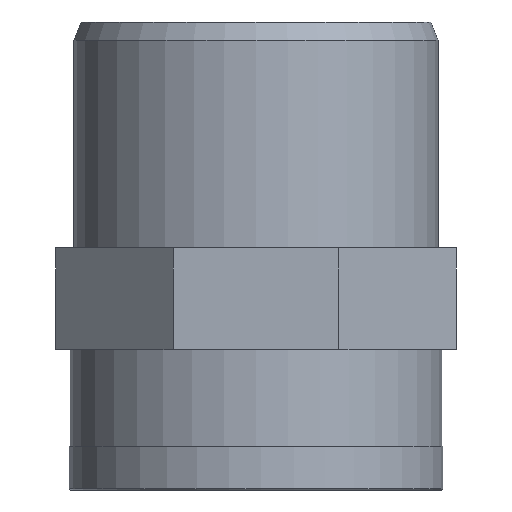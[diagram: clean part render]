
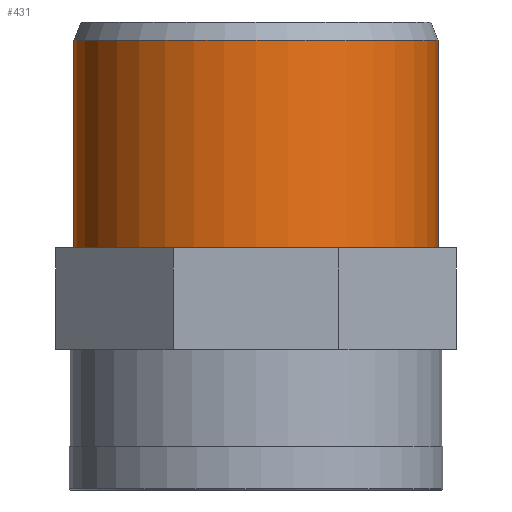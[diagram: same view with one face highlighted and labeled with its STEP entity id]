
A CAD part, front view. The second image highlights one B-rep face of the part: STEP entity #431.
In plain terms, the highlighted cylindrical face has radius 25 mm (diameter 50 mm), a full revolution.
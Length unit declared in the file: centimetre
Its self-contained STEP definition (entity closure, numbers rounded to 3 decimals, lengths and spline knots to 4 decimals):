
#104=FACE_BOUND('',#154,.T.);
#123=FACE_OUTER_BOUND('',#153,.T.);
#153=EDGE_LOOP('',(#322));
#154=EDGE_LOOP('',(#323));
#187=CIRCLE('',#461,2.5);
#189=CIRCLE('',#464,2.5);
#209=VERTEX_POINT('',#4380);
#211=VERTEX_POINT('',#4385);
#253=EDGE_CURVE('',#209,#209,#187,.T.);
#255=EDGE_CURVE('',#211,#211,#189,.T.);
#322=ORIENTED_EDGE('',*,*,#255,.T.);
#323=ORIENTED_EDGE('',*,*,#253,.F.);
#390=CYLINDRICAL_SURFACE('',#463,2.5);
#431=ADVANCED_FACE('',(#123,#104),#390,.T.);
#461=AXIS2_PLACEMENT_3D('',#4381,#512,#513);
#463=AXIS2_PLACEMENT_3D('',#4384,#516,#517);
#464=AXIS2_PLACEMENT_3D('',#4386,#518,#519);
#512=DIRECTION('center_axis',(0.,0.,1.));
#513=DIRECTION('ref_axis',(-1.,0.,0.));
#516=DIRECTION('center_axis',(0.,0.,1.));
#517=DIRECTION('ref_axis',(1.,0.,0.));
#518=DIRECTION('center_axis',(0.,0.,1.));
#519=DIRECTION('ref_axis',(1.,0.,0.));
#4380=CARTESIAN_POINT('',(2.098,-0.003,4.1733));
#4381=CARTESIAN_POINT('Origin',(-0.402,-0.003,
4.1733));
#4384=CARTESIAN_POINT('Origin',(-0.402,-0.003,
2.8733));
#4385=CARTESIAN_POINT('',(2.098,-0.003,1.3233));
#4386=CARTESIAN_POINT('Origin',(-0.402,-0.003,
1.3233));
